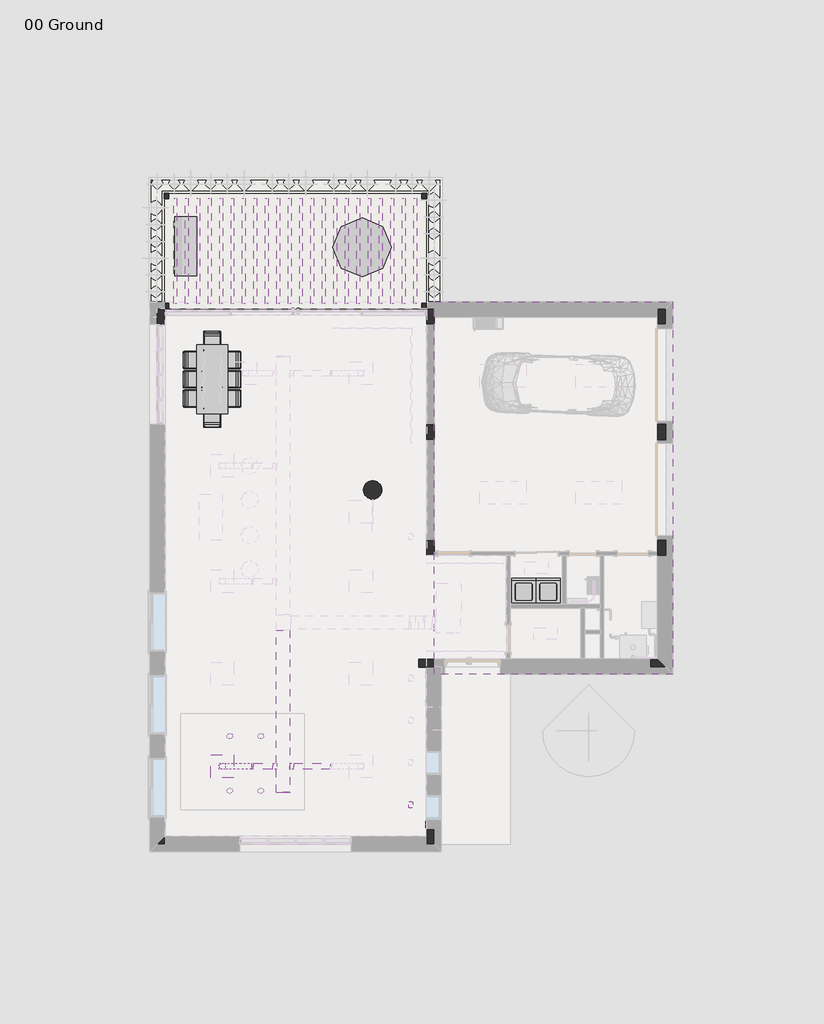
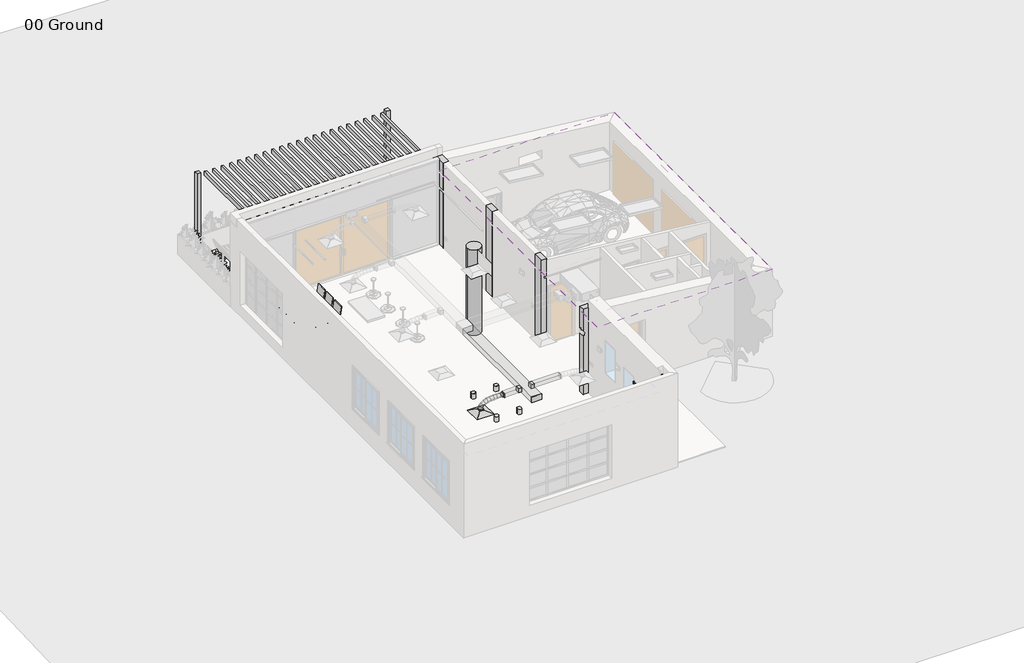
# One storey, part 3 of 7: 22 beams, 19 columns, 6 proxies, 5 duct fittings, 5 light fixtures, 4 duct segments, 2 furniture elements, 2 slabs, 2 other elements.
"""IFC4 building model written with IfcOpenShell, lengths in millimetres."""

from ifc_helpers import new_model, si_unit, frame, origin, origin_with_axes, place, context, project, spatial, polyline, circle_curve, ellipse_curve, outline, extrude, faceted_brep, transform, mapped, element, save
from ifc_brep_helpers import plane_surface, cylinder_surface, advanced_brep
from components import m_supply_diffuser_hosted_supply_diffuser_600x600mm_c6a520ad, m_glulam_southern_pine_76x140_5a5c9036, m_receptacle_220v_standard_10251bba, washer_1_nz_635_x_635_x_890mm_ea8aa6a1, m_glulam_southern_pine_column_127x140_dd4b0262, m_rectangular_endcap_standard_665b9dd8, m_rectangular_takeoff_standard_4b23f397, m_rectangular_takeoff_standard_c5702b73, m_rectangular_to_round_transition_angle_45_degree_4e08f822, furniture_fec55555, furniture_39fc5e60, furniture_cb06e47c, furniture_130fb363, m_table_dining_round_w_chairs_1525mm_diameter_e8096f67, m_downlight_recessed_can_152mm_incandescent_277v_fb24c78e, m_downlight_spot_60_degree_tilt_277v_15926088

model = new_model("IFC4")

# Units and contexts
model_context = context("Model", 3, world=origin())
ifc_project = project(units=[si_unit("LENGTHUNIT", "METRE", prefix="MILLI")], contexts=[model_context])

# Site, building, storey
site = spatial("IfcSite", under=ifc_project)
building = spatial("IfcBuilding", under=site)
storey = spatial("IfcBuildingStorey", under=building, Name="00 Ground", Elevation=0.0)

# Air terminal
placement = place(None, origin())
m_supply_diffuser_hosted_supply_diffuser_600x600mm_shape = m_supply_diffuser_hosted_supply_diffuser_600x600mm_c6a520ad(model_context)
element("IfcAirTerminal", 1, ObjectType="M_Supply Diffuser - Hosted : Supply Diffuser 600x600mm", at=placement, inside=storey, context=model_context, shape_type="MappedRepresentation", body=[
    mapped(m_supply_diffuser_hosted_supply_diffuser_600x600mm_shape, transform((-6624.5407999, -5532.7101648, 2700.0), x_axis=(1.0, 0.0, 0.0), y_axis=(0.0, -1.0, 0.0), z_axis=(0.0, 0.0, -1.0))),
])

# Beams
m_glulam_southern_pine_76x140_shape = m_glulam_southern_pine_76x140_5a5c9036(model_context)
element("IfcBeam", 2, ObjectType="M_Glulam-Southern Pine : 76X140", at=placement, inside=storey, context=model_context, shape_type="MappedRepresentation", body=[
    mapped(m_glulam_southern_pine_76x140_shape, transform((-6656.0190608, 7837.2898352, 3130.0), x_axis=(0.0, -1.0, 0.0), y_axis=(1.0, 0.0, 0.0), z_axis=(0.0, 0.0, 1.0))),
])
element("IfcBeam", 3, ObjectType="M_Glulam-Southern Pine : 76X140", at=placement, inside=storey, context=model_context, shape_type="MappedRepresentation", body=[
    mapped(m_glulam_southern_pine_76x140_shape, transform((-6952.3234086, 7837.2898352, 3130.0), x_axis=(0.0, -1.0, 0.0), y_axis=(1.0, 0.0, 0.0), z_axis=(0.0, 0.0, 1.0))),
])
element("IfcBeam", 4, ObjectType="M_Glulam-Southern Pine : 76X140", at=placement, inside=storey, context=model_context, shape_type="MappedRepresentation", body=[
    mapped(m_glulam_southern_pine_76x140_shape, transform((-7248.6277565, 7837.2898352, 3130.0), x_axis=(0.0, -1.0, 0.0), y_axis=(1.0, 0.0, 0.0), z_axis=(0.0, 0.0, 1.0))),
])
element("IfcBeam", 5, ObjectType="M_Glulam-Southern Pine : 76X140", at=placement, inside=storey, context=model_context, shape_type="MappedRepresentation", body=[
    mapped(m_glulam_southern_pine_76x140_shape, transform((-7544.9321043, 7837.2898352, 3130.0), x_axis=(0.0, -1.0, 0.0), y_axis=(1.0, 0.0, 0.0), z_axis=(0.0, 0.0, 1.0))),
])
element("IfcBeam", 6, ObjectType="M_Glulam-Southern Pine : 76X140", at=placement, inside=storey, context=model_context, shape_type="MappedRepresentation", body=[
    mapped(m_glulam_southern_pine_76x140_shape, transform((-7841.2364521, 7837.2898352, 3130.0), x_axis=(0.0, -1.0, 0.0), y_axis=(1.0, 0.0, 0.0), z_axis=(0.0, 0.0, 1.0))),
])
element("IfcBeam", 7, ObjectType="M_Glulam-Southern Pine : 76X140", at=placement, inside=storey, context=model_context, shape_type="MappedRepresentation", body=[
    mapped(m_glulam_southern_pine_76x140_shape, transform((-1618.8451478, 7837.2898352, 3130.0), x_axis=(0.0, -1.0, 0.0), y_axis=(1.0, 0.0, 0.0), z_axis=(0.0, 0.0, 1.0))),
])
element("IfcBeam", 8, ObjectType="M_Glulam-Southern Pine : 76X140", at=placement, inside=storey, context=model_context, shape_type="MappedRepresentation", body=[
    mapped(m_glulam_southern_pine_76x140_shape, transform((-1915.1494956, 7837.2898352, 3130.0), x_axis=(0.0, -1.0, 0.0), y_axis=(1.0, 0.0, 0.0), z_axis=(0.0, 0.0, 1.0))),
])
element("IfcBeam", 9, ObjectType="M_Glulam-Southern Pine : 76X140", at=placement, inside=storey, context=model_context, shape_type="MappedRepresentation", body=[
    mapped(m_glulam_southern_pine_76x140_shape, transform((-2211.4538434, 7837.2898352, 3130.0), x_axis=(0.0, -1.0, 0.0), y_axis=(1.0, 0.0, 0.0), z_axis=(0.0, 0.0, 1.0))),
])
element("IfcBeam", 10, ObjectType="M_Glulam-Southern Pine : 76X140", at=placement, inside=storey, context=model_context, shape_type="MappedRepresentation", body=[
    mapped(m_glulam_southern_pine_76x140_shape, transform((-2507.7581912, 7837.2898352, 3130.0), x_axis=(0.0, -1.0, 0.0), y_axis=(1.0, 0.0, 0.0), z_axis=(0.0, 0.0, 1.0))),
])
element("IfcBeam", 11, ObjectType="M_Glulam-Southern Pine : 76X140", at=placement, inside=storey, context=model_context, shape_type="MappedRepresentation", body=[
    mapped(m_glulam_southern_pine_76x140_shape, transform((-2804.0625391, 7837.2898352, 3130.0), x_axis=(0.0, -1.0, 0.0), y_axis=(1.0, 0.0, 0.0), z_axis=(0.0, 0.0, 1.0))),
])
element("IfcBeam", 12, ObjectType="M_Glulam-Southern Pine : 76X140", at=placement, inside=storey, context=model_context, shape_type="MappedRepresentation", body=[
    mapped(m_glulam_southern_pine_76x140_shape, transform((-3100.3668869, 7837.2898352, 3130.0), x_axis=(0.0, -1.0, 0.0), y_axis=(1.0, 0.0, 0.0), z_axis=(0.0, 0.0, 1.0))),
])
element("IfcBeam", 13, ObjectType="M_Glulam-Southern Pine : 76X140", at=placement, inside=storey, context=model_context, shape_type="MappedRepresentation", body=[
    mapped(m_glulam_southern_pine_76x140_shape, transform((-3396.6712347, 7837.2898352, 3130.0), x_axis=(0.0, -1.0, 0.0), y_axis=(1.0, 0.0, 0.0), z_axis=(0.0, 0.0, 1.0))),
])
element("IfcBeam", 14, ObjectType="M_Glulam-Southern Pine : 76X140", at=placement, inside=storey, context=model_context, shape_type="MappedRepresentation", body=[
    mapped(m_glulam_southern_pine_76x140_shape, transform((-3692.9755825, 7837.2898352, 3130.0), x_axis=(0.0, -1.0, 0.0), y_axis=(1.0, 0.0, 0.0), z_axis=(0.0, 0.0, 1.0))),
])
element("IfcBeam", 15, ObjectType="M_Glulam-Southern Pine : 76X140", at=placement, inside=storey, context=model_context, shape_type="MappedRepresentation", body=[
    mapped(m_glulam_southern_pine_76x140_shape, transform((-3989.2799304, 7837.2898352, 3130.0), x_axis=(0.0, -1.0, 0.0), y_axis=(1.0, 0.0, 0.0), z_axis=(0.0, 0.0, 1.0))),
])
element("IfcBeam", 16, ObjectType="M_Glulam-Southern Pine : 76X140", at=placement, inside=storey, context=model_context, shape_type="MappedRepresentation", body=[
    mapped(m_glulam_southern_pine_76x140_shape, transform((-4285.5842782, 7837.2898352, 3130.0), x_axis=(0.0, -1.0, 0.0), y_axis=(1.0, 0.0, 0.0), z_axis=(0.0, 0.0, 1.0))),
])
element("IfcBeam", 17, ObjectType="M_Glulam-Southern Pine : 76X140", at=placement, inside=storey, context=model_context, shape_type="MappedRepresentation", body=[
    mapped(m_glulam_southern_pine_76x140_shape, transform((-4581.888626, 7837.2898352, 3130.0), x_axis=(0.0, -1.0, 0.0), y_axis=(1.0, 0.0, 0.0), z_axis=(0.0, 0.0, 1.0))),
])
element("IfcBeam", 18, ObjectType="M_Glulam-Southern Pine : 76X140", at=placement, inside=storey, context=model_context, shape_type="MappedRepresentation", body=[
    mapped(m_glulam_southern_pine_76x140_shape, transform((-4878.1929738, 7837.2898352, 3130.0), x_axis=(0.0, -1.0, 0.0), y_axis=(1.0, 0.0, 0.0), z_axis=(0.0, 0.0, 1.0))),
])
element("IfcBeam", 19, ObjectType="M_Glulam-Southern Pine : 76X140", at=placement, inside=storey, context=model_context, shape_type="MappedRepresentation", body=[
    mapped(m_glulam_southern_pine_76x140_shape, transform((-5174.4973217, 7837.2898352, 3130.0), x_axis=(0.0, -1.0, 0.0), y_axis=(1.0, 0.0, 0.0), z_axis=(0.0, 0.0, 1.0))),
])
element("IfcBeam", 20, ObjectType="M_Glulam-Southern Pine : 76X140", at=placement, inside=storey, context=model_context, shape_type="MappedRepresentation", body=[
    mapped(m_glulam_southern_pine_76x140_shape, transform((-5470.8016695, 7837.2898352, 3130.0), x_axis=(0.0, -1.0, 0.0), y_axis=(1.0, 0.0, 0.0), z_axis=(0.0, 0.0, 1.0))),
])
element("IfcBeam", 21, ObjectType="M_Glulam-Southern Pine : 76X140", at=placement, inside=storey, context=model_context, shape_type="MappedRepresentation", body=[
    mapped(m_glulam_southern_pine_76x140_shape, transform((-5767.1060173, 7837.2898352, 3130.0), x_axis=(0.0, -1.0, 0.0), y_axis=(1.0, 0.0, 0.0), z_axis=(0.0, 0.0, 1.0))),
])
element("IfcBeam", 22, ObjectType="M_Glulam-Southern Pine : 76X140", at=placement, inside=storey, context=model_context, shape_type="MappedRepresentation", body=[
    mapped(m_glulam_southern_pine_76x140_shape, transform((-6063.4103652, 7837.2898352, 3130.0), x_axis=(0.0, -1.0, 0.0), y_axis=(1.0, 0.0, 0.0), z_axis=(0.0, 0.0, 1.0))),
])
element("IfcBeam", 23, ObjectType="M_Glulam-Southern Pine : 76X140", at=placement, inside=storey, context=model_context, shape_type="MappedRepresentation", body=[
    mapped(m_glulam_southern_pine_76x140_shape, transform((-6359.714713, 7837.2898352, 3130.0), x_axis=(0.0, -1.0, 0.0), y_axis=(1.0, 0.0, 0.0), z_axis=(0.0, 0.0, 1.0))),
])

# Proxies
m_receptacle_220v_standard_shape = m_receptacle_220v_standard_10251bba(model_context)
element("IfcBuildingElementProxy", 24, Name="M_Receptacle - 220V : Standard", ObjectType="M_Receptacle - 220V : Standard", at=placement, inside=storey, context=model_context, shape_type="MappedRepresentation", body=[
    mapped(m_receptacle_220v_standard_shape, transform((-8109.5407999, -6977.7101648, 460.0), x_axis=(0.0, 1.0, 0.0), y_axis=(0.0, 0.0, 1.0), z_axis=(1.0, 0.0, 0.0))),
])
element("IfcBuildingElementProxy", 25, Name="M_Receptacle - 220V : Standard", ObjectType="M_Receptacle - 220V : Standard", at=placement, inside=storey, context=model_context, shape_type="MappedRepresentation", body=[
    mapped(m_receptacle_220v_standard_shape, transform((-8109.5407999, -957.7101648, 460.0), x_axis=(0.0, 1.0, 0.0), y_axis=(0.0, 0.0, 1.0), z_axis=(1.0, 0.0, 0.0))),
])
element("IfcBuildingElementProxy", 26, Name="M_Receptacle - 220V : Standard", ObjectType="M_Receptacle - 220V : Standard", at=placement, inside=storey, context=model_context, shape_type="MappedRepresentation", body=[
    mapped(m_receptacle_220v_standard_shape, transform((-1335.5407999, -6989.7101648, 460.0), x_axis=(0.0, -1.0, 0.0), y_axis=(0.0, 0.0, 1.0), z_axis=(-1.0, 0.0, 0.0))),
])
element("IfcBuildingElementProxy", 27, Name="M_Receptacle - 220V : Standard", ObjectType="M_Receptacle - 220V : Standard", at=placement, inside=storey, context=model_context, shape_type="MappedRepresentation", body=[
    mapped(m_receptacle_220v_standard_shape, transform((-1335.5407999, -7089.7101648, 460.0), x_axis=(0.0, -1.0, 0.0), y_axis=(0.0, 0.0, 1.0), z_axis=(-1.0, 0.0, 0.0))),
])
washer_1_nz_635_x_635_x_890mm_shape = washer_1_nz_635_x_635_x_890mm_ea8aa6a1(model_context)
element("IfcBuildingElementProxy", 28, Name="Washer 1 (NZ) : 635 x 635 x 890mm", ObjectType="Washer 1 (NZ) : 635 x 635 x 890mm", at=placement, inside=storey, context=model_context, shape_type="MappedRepresentation", body=[
    mapped(washer_1_nz_635_x_635_x_890mm_shape, transform((802.8947027, -1253.3971499, 0.0), x_axis=(1.0, 0.0, 0.0), y_axis=(0.0, 1.0, 0.0), z_axis=(0.0, 0.0, 1.0))),
])
element("IfcBuildingElementProxy", 29, Name="Washer 1 (NZ) : 635 x 635 x 890mm", ObjectType="Washer 1 (NZ) : 635 x 635 x 890mm", at=placement, inside=storey, context=model_context, shape_type="MappedRepresentation", body=[
    mapped(washer_1_nz_635_x_635_x_890mm_shape, transform((1437.8947027, -1253.3971499, 0.0), x_axis=(1.0, 0.0, 0.0), y_axis=(0.0, 1.0, 0.0), z_axis=(0.0, 0.0, 1.0))),
])

# Columns
element("IfcColumn", 30, ObjectType="M_Concrete-Rectangular-Column : 200 x 400mm", at=placement, inside=storey, context=model_context, shape_type="Brep", body=[
    faceted_brep([(-8122.5407999, 6337.2898352, 0.0), (-8122.5407999, 5937.2898352, 0.0), (-8322.5407999, 5937.2898352, 0.0), (-8322.5407999, 6337.2898352, 0.0), (-8122.5407999, 6337.2898352, 3200.0), (-8122.5407999, 5937.2898352, 3200.0), (-8122.5407999, 5937.2898352, 2400.0), (-8122.5407999, 5937.2898352, 400.0), (-8322.5407999, 5937.2898352, 3200.0), (-8322.5407999, 5937.2898352, 2400.0), (-8322.5407999, 5937.2898352, 400.0), (-8322.5407999, 6124.2898352, 3200.0), (-8322.5407999, 6337.2898352, 3200.0)], [[[0, 1, 2, 3]], [[1, 0, 4, 5, 6, 7]], [[2, 1, 7, 6, 5, 8, 9, 10]], [[3, 2, 10, 9, 8, 11, 12]], [[0, 3, 12, 4]], [[5, 4, 12, 11, 8]]]),
])
element("IfcColumn", 31, ObjectType="M_Concrete-Rectangular-Column : 200 x 400mm", at=placement, inside=storey, context=model_context, shape_type="SweptSolid", body=[
    extrude(outline(polyline([(-8122.5407999, 3337.2898352), (-8122.5407999, 2937.2898352), (-8322.5407999, 2937.2898352), (-8322.5407999, 3337.2898352), (-8122.5407999, 3337.2898352)])), origin_with_axes(), (0.0, 0.0, 1.0), 3200.0),
])
element("IfcColumn", 32, ObjectType="M_Concrete-Rectangular-Column : 200 x 400mm", at=placement, inside=storey, context=model_context, shape_type="SweptSolid", body=[
    extrude(outline(polyline([(-8122.5407999, 337.2898352), (-8122.5407999, -62.7101648), (-8322.5407999, -62.7101648), (-8322.5407999, 337.2898352), (-8122.5407999, 337.2898352)])), origin_with_axes(), (0.0, 0.0, 1.0), 3200.0),
])
element("IfcColumn", 33, ObjectType="M_Concrete-Rectangular-Column : 200 x 400mm", at=placement, inside=storey, context=model_context, shape_type="SweptSolid", body=[
    extrude(outline(polyline([(-8122.5407999, -2662.7101648), (-8122.5407999, -3062.7101648), (-8322.5407999, -3062.7101648), (-8322.5407999, -2662.7101648), (-8122.5407999, -2662.7101648)])), origin_with_axes(), (0.0, 0.0, 1.0), 3200.0),
])
element("IfcColumn", 34, ObjectType="M_Concrete-Rectangular-Column : 200 x 400mm", at=placement, inside=storey, context=model_context, shape_type="SweptSolid", body=[
    extrude(outline(polyline([(-1122.5407999, 337.2898352), (-1122.5407999, -62.7101648), (-1322.5407999, -62.7101648), (-1322.5407999, 337.2898352), (-1122.5407999, 337.2898352)])), origin_with_axes(), (0.0, 0.0, 1.0), 3200.0),
])
element("IfcColumn", 35, ObjectType="M_Concrete-Rectangular-Column : 200 x 400mm", at=placement, inside=storey, context=model_context, shape_type="Brep", body=[
    faceted_brep([(-1522.5407999, -2762.7101648, 0.0), (-1122.5407999, -2762.7101648, 0.0), (-1122.5407999, -2948.7101648, 0.0), (-1122.5407999, -2962.7101648, 0.0), (-1335.5407999, -2962.7101648, 0.0), (-1522.5407999, -2962.7101648, 0.0), (-1522.5407999, -2762.7101648, 3200.0), (-1122.5407999, -2762.7101648, 3200.0), (-1122.5407999, -2962.7101648, 3200.0), (-1522.5407999, -2962.7101648, 3200.0)], [[[0, 1, 2, 3, 4, 5]], [[1, 0, 6, 7]], [[3, 2, 1, 7, 8]], [[5, 4, 3, 8, 9]], [[0, 5, 9, 6]], [[7, 6, 9, 8]]]),
])
element("IfcColumn", 36, ObjectType="M_Concrete-Rectangular-Column : 200 x 400mm", at=placement, inside=storey, context=model_context, shape_type="Brep", body=[
    faceted_brep([(4877.4592001, 6337.2898352, 0.0), (4877.4592001, 5937.2898352, 0.0), (4677.4592001, 5937.2898352, 0.0), (4677.4592001, 6137.2898352, 0.0), (4677.4592001, 6337.2898352, 0.0), (4877.4592001, 6337.2898352, 2519.7413096), (4877.4592001, 5937.2898352, 2519.7413096), (4677.4592001, 5937.2898352, 2519.7413096), (4677.4592001, 6137.2898352, 2519.7413096), (4677.4592001, 6337.2898352, 2519.7413096)], [[[0, 1, 2, 3, 4]], [[5, 6, 1, 0]], [[6, 7, 2, 1]], [[7, 8, 9, 4, 3, 2]], [[9, 5, 0, 4]], [[5, 9, 8, 7, 6]]]),
])
element("IfcColumn", 37, ObjectType="M_Concrete-Rectangular-Column : 200 x 400mm", at=placement, inside=storey, context=model_context, shape_type="Brep", body=[
    faceted_brep([(-1122.5407999, 6337.2898352, 0.0), (-1122.5407999, 6124.2898352, 0.0), (-1122.5407999, 5937.2898352, 0.0), (-1322.5407999, 5937.2898352, 0.0), (-1322.5407999, 6337.2898352, 0.0), (-1122.5407999, 6337.2898352, 3160.0), (-1122.5407999, 6337.2898352, 3200.0), (-1122.5407999, 5937.2898352, 3200.0), (-1322.5407999, 5937.2898352, 3200.0), (-1322.5407999, 6337.2898352, 3200.0), (-1300.0407999, 6337.2898352, 3200.0)], [[[0, 1, 2, 3, 4]], [[2, 1, 0, 5, 6, 7]], [[3, 2, 7, 8]], [[4, 3, 8, 9]], [[0, 4, 9, 10, 6, 5]], [[7, 6, 10, 9, 8]]]),
])
element("IfcColumn", 38, ObjectType="M_Concrete-Rectangular-Column : 200 x 400mm", at=placement, inside=storey, context=model_context, shape_type="SweptSolid", body=[
    extrude(outline(polyline([(-1122.5407999, 3337.2898352), (-1122.5407999, 2937.2898352), (-1322.5407999, 2937.2898352), (-1322.5407999, 3337.2898352), (-1122.5407999, 3337.2898352)])), origin_with_axes(), (0.0, 0.0, 1.0), 3200.0),
])
element("IfcColumn", 39, ObjectType="M_Concrete-Rectangular-Column : 200 x 400mm", at=placement, inside=storey, context=model_context, shape_type="SweptSolid", body=[
    extrude(outline(polyline([(4877.4592001, 3337.2898352), (4877.4592001, 2937.2898352), (4677.4592001, 2937.2898352), (4677.4592001, 3337.2898352), (4877.4592001, 3337.2898352)])), origin_with_axes(), (0.0, 0.0, 1.0), 2519.7413096),
])
element("IfcColumn", 40, ObjectType="M_Concrete-Rectangular-Column : 200 x 400mm", at=placement, inside=storey, context=model_context, shape_type="Brep", body=[
    faceted_brep([(4477.4592001, -2762.7101648, 0.0), (4677.4592001, -2762.7101648, 0.0), (4877.4592001, -2762.7101648, 0.0), (4877.4592001, -2962.7101648, 0.0), (4477.4592001, -2962.7101648, 0.0), (4477.4592001, -2762.7101648, 2519.7413096), (4677.4592001, -2762.7101648, 2519.7413096), (4877.4592001, -2762.7101648, 2519.7413096), (4877.4592001, -2962.7101648, 2519.7413096), (4477.4592001, -2962.7101648, 2519.7413096)], [[[0, 1, 2, 3, 4]], [[5, 6, 7, 2, 1, 0]], [[7, 8, 3, 2]], [[8, 9, 4, 3]], [[9, 5, 0, 4]], [[5, 9, 8, 7, 6]]]),
])
element("IfcColumn", 41, ObjectType="M_Concrete-Rectangular-Column : 200 x 400mm", at=placement, inside=storey, context=model_context, shape_type="SweptSolid", body=[
    extrude(outline(polyline([(4677.4592001, -62.7101648), (4677.4592001, 337.2898352), (4877.4592001, 337.2898352), (4877.4592001, -62.7101648), (4677.4592001, -62.7101648)])), origin_with_axes(), (0.0, 0.0, 1.0), 2519.7413096),
])
element("IfcColumn", 42, ObjectType="M_Concrete-Rectangular-Column : 200 x 400mm", at=placement, inside=storey, context=model_context, shape_type="Brep", body=[
    faceted_brep([(-8122.5407999, -7162.7101648, 0.0), (-8122.5407999, -7362.7101648, 0.0), (-8122.5407999, -7562.7101648, 0.0), (-8322.5407999, -7562.7101648, 0.0), (-8322.5407999, -7162.7101648, 0.0), (-8122.5407999, -7162.7101648, 3200.0), (-8122.5407999, -7362.7101648, 3200.0), (-8122.5407999, -7562.7101648, 3200.0), (-8322.5407999, -7562.7101648, 3200.0), (-8322.5407999, -7162.7101648, 3200.0)], [[[0, 1, 2, 3, 4]], [[2, 1, 0, 5, 6, 7]], [[3, 2, 7, 8]], [[4, 3, 8, 9]], [[0, 4, 9, 5]], [[7, 6, 5, 9, 8]]]),
])
element("IfcColumn", 43, ObjectType="M_Concrete-Rectangular-Column : 200 x 400mm", at=placement, inside=storey, context=model_context, shape_type="Brep", body=[
    faceted_brep([(-1122.5407999, -7162.7101648, 0.0), (-1122.5407999, -7562.7101648, 0.0), (-1322.5407999, -7562.7101648, 0.0), (-1322.5407999, -7362.7101648, 0.0), (-1322.5407999, -7162.7101648, 0.0), (-1122.5407999, -7162.7101648, 3200.0), (-1122.5407999, -7562.7101648, 3200.0), (-1322.5407999, -7562.7101648, 3200.0), (-1322.5407999, -7362.7101648, 3200.0), (-1322.5407999, -7162.7101648, 3200.0)], [[[0, 1, 2, 3, 4]], [[1, 0, 5, 6]], [[2, 1, 6, 7]], [[4, 3, 2, 7, 8, 9]], [[0, 4, 9, 5]], [[6, 5, 9, 8, 7]]]),
])
element("IfcColumn", 44, ObjectType="M_Concrete-Round-Column : 480mm", at=placement, inside=storey, context=model_context, shape_type="AdvancedBrep", body=[
    advanced_brep(
    [(-2962.5407999, 1637.2898352, 0.0), (-2482.5407999, 1637.2898352, 0.0), (-2962.5407999, 1637.2898352, 3200.0), (-2482.5407999, 1637.2898352, 3200.0), (-2722.1476319, 1397.2901573, 3200.0)],
    [
        (0, 1, circle_curve(frame((-2722.5407999, 1637.2898352, 0.0), z_axis=(0.0, 0.0, -1.0), x_axis=(1.0, 0.0, 0.0)), 240.0)),
        (1, 0, circle_curve(frame((-2722.5407999, 1637.2898352, 0.0), z_axis=(0.0, 0.0, -1.0), x_axis=(1.0, 0.0, 0.0)), 240.0)),
        (0, 2),
        (2, 3, circle_curve(frame((-2722.5407999, 1637.2898352, 3200.0), z_axis=(0.0, 0.0, -1.0), x_axis=(1.0, 0.0, 0.0)), 240.0)),
        (3, 1),
        (3, 4, circle_curve(frame((-2722.5407999, 1637.2898352, 3200.0), z_axis=(0.0, 0.0, -1.0), x_axis=(1.0, 0.0, 0.0)), 240.0)),
        (4, 2, circle_curve(frame((-2722.5407999, 1637.2898352, 3200.0), z_axis=(0.0, 0.0, -1.0), x_axis=(1.0, 0.0, 0.0)), 240.0)),
    ],
    [
        plane_surface(frame((-2482.5407999, 1637.2898352, 0.0), z_axis=(0.0, 0.0, -1.0), x_axis=(0.0, -1.0, 0.0))),
        cylinder_surface(frame((-2722.5407999, 1637.2898352, 0.0), z_axis=(0.0, 0.0, 1.0), x_axis=(1.0, 0.0, 0.0)), 240.0),
        plane_surface(frame((4877.4592001, 6337.2898352, 3200.0), z_axis=(0.0, 0.0, 1.0), x_axis=(1.0, 0.0, 0.0))),
    ],
    [
        (0, [[1, 2]]),
        (1, [[-1, 3, 4, 5]]),
        (1, [[-2, -5, 6, 7, -3]]),
        (2, [[-4, -7, -6]]),
    ],
),
])
m_glulam_southern_pine_column_127x140_shape = m_glulam_southern_pine_column_127x140_dd4b0262(model_context)
element("IfcColumn", 45, ObjectType="M_Glulam-Southern Pine-Column : 127x140", at=placement, inside=storey, context=model_context, shape_type="MappedRepresentation", body=[
    mapped(m_glulam_southern_pine_column_127x140_shape, transform((-8074.0407999, 9267.2898352, 0.0), x_axis=(1.0, 0.0, 0.0), y_axis=(0.0, 1.0, 0.0), z_axis=(0.0, 0.0, 1.0))),
])
element("IfcColumn", 46, ObjectType="M_Glulam-Southern Pine-Column : 127x140", at=placement, inside=storey, context=model_context, shape_type="MappedRepresentation", body=[
    mapped(m_glulam_southern_pine_column_127x140_shape, transform((-1386.0407999, 9267.2898352, 0.0), x_axis=(1.0, 0.0, 0.0), y_axis=(0.0, 1.0, 0.0), z_axis=(0.0, 0.0, 1.0))),
])
element("IfcColumn", 47, ObjectType="M_Glulam-Southern Pine-Column : 127x140", at=placement, inside=storey, context=model_context, shape_type="MappedRepresentation", body=[
    mapped(m_glulam_southern_pine_column_127x140_shape, transform((-8074.0407999, 6407.2898352, 0.0), x_axis=(1.0, 0.0, 0.0), y_axis=(0.0, 1.0, 0.0), z_axis=(0.0, 0.0, 1.0))),
])
element("IfcColumn", 48, ObjectType="M_Glulam-Southern Pine-Column : 127x140", at=placement, inside=storey, context=model_context, shape_type="MappedRepresentation", body=[
    mapped(m_glulam_southern_pine_column_127x140_shape, transform((-1386.0407999, 6407.2898352, 0.0), x_axis=(1.0, 0.0, 0.0), y_axis=(0.0, 1.0, 0.0), z_axis=(0.0, 0.0, 1.0))),
])

# Duct fittings
m_rectangular_endcap_standard_shape = m_rectangular_endcap_standard_665b9dd8(model_context)
element("IfcDuctFitting", 49, ObjectType="M_Rectangular Endcap : Standard", at=placement, inside=storey, context=model_context, shape_type="MappedRepresentation", body=[
    mapped(m_rectangular_endcap_standard_shape, transform((-5044.5407999, -6202.2101648, 3090.0), x_axis=(0.0, -1.0, 0.0), y_axis=(1.0, 0.0, 0.0), z_axis=(0.0, 0.0, 1.0))),
])
m_rectangular_takeoff_standard_shape = m_rectangular_takeoff_standard_4b23f397(model_context)
element("IfcDuctFitting", 50, ObjectType="M_Rectangular Takeoff : Standard", at=placement, inside=storey, context=model_context, shape_type="MappedRepresentation", body=[
    mapped(m_rectangular_takeoff_standard_shape, transform((-4869.5407999, -5532.7101648, 3090.0), x_axis=(1.0, 0.0, 0.0), y_axis=(0.0, -1.0, 0.0), z_axis=(0.0, 0.0, -1.0))),
])
m_rectangular_takeoff_standard_2_shape = m_rectangular_takeoff_standard_c5702b73(model_context)
element("IfcDuctFitting", 51, ObjectType="M_Rectangular Takeoff : Standard", at=placement, inside=storey, context=model_context, shape_type="MappedRepresentation", body=[
    mapped(m_rectangular_takeoff_standard_2_shape, transform((-5219.5407999, -5532.7101648, 3090.0), x_axis=(-1.0, 0.0, 0.0), y_axis=(0.0, 1.0, 0.0), z_axis=(0.0, 0.0, -1.0))),
])
m_rectangular_to_round_transition_angle_45_degree_shape = m_rectangular_to_round_transition_angle_45_degree_4e08f822(model_context)
element("IfcDuctFitting", 52, ObjectType="M_Rectangular to Round Transition - Angle : 45 Degree", at=placement, inside=storey, context=model_context, shape_type="MappedRepresentation", body=[
    mapped(m_rectangular_to_round_transition_angle_45_degree_shape, transform((-6624.5407999, -5532.7101648, 2801.8523776), x_axis=(0.0, 0.0, 1.0), y_axis=(-1.0, 0.0, 0.0), z_axis=(0.0, -1.0, 0.0))),
])
element("IfcDuctFitting", 53, ObjectType="M_Rectangular to Round Transition - Angle : 45 Degree", at=placement, inside=storey, context=model_context, shape_type="MappedRepresentation", body=[
    mapped(m_rectangular_to_round_transition_angle_45_degree_shape, transform((-5824.8204567, -5532.7101648, 3090.0), x_axis=(-1.0, 0.0, 0.0), y_axis=(0.0, -1.0, 0.0), z_axis=(0.0, 0.0, 1.0))),
])

# Duct segments
element("IfcDuctSegment", 54, ObjectType="Flex - Round", at=placement, inside=storey, context=model_context, shape_type="AdvancedBrep", body=[
    advanced_brep(
    [(-6549.5407999, -5532.7101648, 2839.3523776), (-6624.5407999, -5607.7101648, 2839.3523776), (-6699.5407999, -5532.7101648, 2839.3523776), (-6624.5407999, -5457.7101648, 2839.3523776), (-6549.5407999, -5532.7101648, 2845.2848901), (-6624.5407999, -5607.7101648, 2855.419138), (-6699.5407999, -5532.7101648, 2865.5533859), (-6624.5407999, -5457.7101648, 2855.419138), (-6538.9605787, -5532.7101648, 2883.7203187), (-6607.2067583, -5607.7101648, 2918.3895908), (-6675.4529379, -5532.7101648, 2953.0588628), (-6607.2067583, -5457.7101648, 2918.3895908), (-6508.7482866, -5532.7101648, 2921.7423363), (-6559.1665904, -5607.7101648, 2978.8479003), (-6609.5848941, -5532.7101648, 3035.9534644), (-6559.1665904, -5457.7101648, 2978.8479003), (-6454.5294779, -5532.7101648, 2954.7766158), (-6486.3632316, -5607.7101648, 3023.205321), (-6518.1969853, -5532.7101648, 3091.6340262), (-6486.3632316, -5457.7101648, 3023.205321), (-6375.8137951, -5532.7101648, 2981.1812805), (-6394.7396175, -5607.7101648, 3053.9398674), (-6413.6654398, -5532.7101648, 3126.6984544), (-6394.7396175, -5457.7101648, 3053.9398674), (-6279.6508054, -5532.7101648, 2999.207941), (-6290.2386834, -5607.7101648, 3073.5295543), (-6300.8265614, -5532.7101648, 3147.8511676), (-6290.2386834, -5457.7101648, 3073.5295543), (-6173.5634766, -5532.7101648, 3009.6065753), (-6178.8033648, -5607.7101648, 3084.4523963), (-6184.043253, -5532.7101648, 3159.2982173), (-6178.8033648, -5457.7101648, 3084.4523963), (-6064.4414556, -5532.7101648, 3014.2014325), (-6066.3765972, -5607.7101648, 3089.1864082), (-6068.3117388, -5532.7101648, 3164.1713838), (-6066.3765972, -5457.7101648, 3089.1864082), (-5958.6256959, -5532.7101648, 3015.2088297), (-5958.901316, -5607.7101648, 3090.2096045), (-5959.1769362, -5532.7101648, 3165.2103793), (-5958.901316, -5457.7101648, 3090.2096045), (-5862.483225, -5532.7101648, 3015.0001766), (-5862.3204567, -5457.7101648, 3090.0), (-5862.1576884, -5532.7101648, 3164.9998234), (-5862.3204567, -5607.7101648, 3090.0)],
    [
        (0, 1, circle_curve(frame((-6624.5407999, -5532.7101648, 2839.3523776), z_axis=(0.0, 0.0, -1.0), x_axis=(1.0, 0.0, 0.0)), 75.0)),
        (1, 2, circle_curve(frame((-6624.5407999, -5532.7101648, 2839.3523776), z_axis=(0.0, 0.0, -1.0), x_axis=(1.0, 0.0, 0.0)), 75.0)),
        (2, 3, circle_curve(frame((-6624.5407999, -5532.7101648, 2839.3523776), z_axis=(0.0, 0.0, -1.0), x_axis=(1.0, 0.0, 0.0)), 75.0)),
        (3, 0, circle_curve(frame((-6624.5407999, -5532.7101648, 2839.3523776), z_axis=(0.0, 0.0, -1.0), x_axis=(1.0, 0.0, 0.0)), 75.0)),
        (0, 4),
        (4, 5, ellipse_curve(frame((-6624.5407999, -5532.7101648, 2855.419138), z_axis=(-0.13390638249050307, 0.0, -0.9909939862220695), x_axis=(0.9909939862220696, 0.0, -0.13390638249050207)), 75.6815894, 75.0)),
        (5, 1),
        (5, 6, ellipse_curve(frame((-6624.5407999, -5532.7101648, 2855.419138), z_axis=(-0.13390638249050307, 0.0, -0.9909939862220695), x_axis=(0.9909939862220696, 0.0, -0.13390638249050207)), 75.6815894, 75.0)),
        (6, 2),
        (6, 7, ellipse_curve(frame((-6624.5407999, -5532.7101648, 2855.419138), z_axis=(-0.13390638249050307, 0.0, -0.9909939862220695), x_axis=(0.9909939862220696, 0.0, -0.13390638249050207)), 75.6815894, 75.0)),
        (7, 3),
        (7, 4, ellipse_curve(frame((-6624.5407999, -5532.7101648, 2855.419138), z_axis=(-0.13390638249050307, 0.0, -0.9909939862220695), x_axis=(0.9909939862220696, 0.0, -0.13390638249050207)), 75.6815894, 75.0)),
        (4, 8),
        (8, 9, ellipse_curve(frame((-6607.2067583, -5532.7101648, 2918.3895908), z_axis=(-0.45291266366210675, 0.0, -0.8915548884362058), x_axis=(0.8915548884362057, 0.0, -0.45291266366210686)), 76.5473674, 75.0)),
        (9, 5),
        (9, 10, ellipse_curve(frame((-6607.2067583, -5532.7101648, 2918.3895908), z_axis=(-0.45291266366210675, 0.0, -0.8915548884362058), x_axis=(0.8915548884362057, 0.0, -0.45291266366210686)), 76.5473674, 75.0)),
        (10, 6),
        (10, 11, ellipse_curve(frame((-6607.2067583, -5532.7101648, 2918.3895908), z_axis=(-0.45291266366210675, 0.0, -0.8915548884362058), x_axis=(0.8915548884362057, 0.0, -0.45291266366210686)), 76.5473674, 75.0)),
        (11, 7),
        (11, 8, ellipse_curve(frame((-6607.2067583, -5532.7101648, 2918.3895908), z_axis=(-0.45291266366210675, 0.0, -0.8915548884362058), x_axis=(0.8915548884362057, 0.0, -0.45291266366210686)), 76.5473674, 75.0)),
        (8, 12),
        (12, 13, ellipse_curve(frame((-6559.1665904, -5532.7101648, 2978.8479003), z_axis=(-0.74963566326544, 0.0, -0.661850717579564), x_axis=(0.6618507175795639, 0.0, -0.7496356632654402)), 76.1777579, 75.0)),
        (13, 9),
        (13, 14, ellipse_curve(frame((-6559.1665904, -5532.7101648, 2978.8479003), z_axis=(-0.74963566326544, 0.0, -0.661850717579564), x_axis=(0.6618507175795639, 0.0, -0.7496356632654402)), 76.1777579, 75.0)),
        (14, 10),
        (14, 15, ellipse_curve(frame((-6559.1665904, -5532.7101648, 2978.8479003), z_axis=(-0.74963566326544, 0.0, -0.661850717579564), x_axis=(0.6618507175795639, 0.0, -0.7496356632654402)), 76.1777579, 75.0)),
        (15, 11),
        (15, 12, ellipse_curve(frame((-6559.1665904, -5532.7101648, 2978.8479003), z_axis=(-0.74963566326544, 0.0, -0.661850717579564), x_axis=(0.6618507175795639, 0.0, -0.7496356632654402)), 76.1777579, 75.0)),
        (12, 16),
        (16, 17, ellipse_curve(frame((-6486.3632316, -5532.7101648, 3023.205321), z_axis=(-0.9066884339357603, 0.0, -0.42180100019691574), x_axis=(0.42180100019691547, 0.0, -0.9066884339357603)), 75.4710247, 75.0)),
        (17, 13),
        (17, 18, ellipse_curve(frame((-6486.3632316, -5532.7101648, 3023.205321), z_axis=(-0.9066884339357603, 0.0, -0.42180100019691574), x_axis=(0.42180100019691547, 0.0, -0.9066884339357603)), 75.4710247, 75.0)),
        (18, 14),
        (18, 19, ellipse_curve(frame((-6486.3632316, -5532.7101648, 3023.205321), z_axis=(-0.9066884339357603, 0.0, -0.42180100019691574), x_axis=(0.42180100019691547, 0.0, -0.9066884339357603)), 75.4710247, 75.0)),
        (19, 15),
        (19, 16, ellipse_curve(frame((-6486.3632316, -5532.7101648, 3023.205321), z_axis=(-0.9066884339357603, 0.0, -0.42180100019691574), x_axis=(0.42180100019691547, 0.0, -0.9066884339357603)), 75.4710247, 75.0)),
        (16, 20),
        (20, 21, ellipse_curve(frame((-6394.7396175, -5532.7101648, 3053.9398674), z_axis=(-0.9677946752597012, 0.0, -0.251740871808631), x_axis=(0.2517408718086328, 0.0, -0.9677946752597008)), 75.179776, 75.0)),
        (21, 17),
        (21, 22, ellipse_curve(frame((-6394.7396175, -5532.7101648, 3053.9398674), z_axis=(-0.9677946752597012, 0.0, -0.251740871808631), x_axis=(0.2517408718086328, 0.0, -0.9677946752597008)), 75.179776, 75.0)),
        (22, 18),
        (22, 23, ellipse_curve(frame((-6394.7396175, -5532.7101648, 3053.9398674), z_axis=(-0.9677946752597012, 0.0, -0.251740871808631), x_axis=(0.2517408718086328, 0.0, -0.9677946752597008)), 75.179776, 75.0)),
        (23, 19),
        (23, 20, ellipse_curve(frame((-6394.7396175, -5532.7101648, 3053.9398674), z_axis=(-0.9677946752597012, 0.0, -0.251740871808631), x_axis=(0.2517408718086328, 0.0, -0.9677946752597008)), 75.179776, 75.0)),
        (20, 24),
        (24, 25, ellipse_curve(frame((-6290.2386834, -5532.7101648, 3073.5295543), z_axis=(-0.9900044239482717, 0.0, -0.14103630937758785), x_axis=(0.1410363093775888, 0.0, -0.9900044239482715)), 75.0720012, 75.0)),
        (25, 21),
        (25, 26, ellipse_curve(frame((-6290.2386834, -5532.7101648, 3073.5295543), z_axis=(-0.9900044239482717, 0.0, -0.14103630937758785), x_axis=(0.1410363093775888, 0.0, -0.9900044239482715)), 75.0720012, 75.0)),
        (26, 22),
        (26, 27, ellipse_curve(frame((-6290.2386834, -5532.7101648, 3073.5295543), z_axis=(-0.9900044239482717, 0.0, -0.14103630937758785), x_axis=(0.1410363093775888, 0.0, -0.9900044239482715)), 75.0720012, 75.0)),
        (27, 23),
        (27, 24, ellipse_curve(frame((-6290.2386834, -5532.7101648, 3073.5295543), z_axis=(-0.9900044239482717, 0.0, -0.14103630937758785), x_axis=(0.1410363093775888, 0.0, -0.9900044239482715)), 75.0720012, 75.0)),
        (24, 28),
        (28, 29, ellipse_curve(frame((-6178.8033648, -5532.7101648, 3084.4523963), z_axis=(-0.9975583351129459, 0.0, -0.06983815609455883), x_axis=(0.06983815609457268, 0.0, -0.9975583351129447)), 75.0290167, 75.0)),
        (29, 25),
        (29, 30, ellipse_curve(frame((-6178.8033648, -5532.7101648, 3084.4523963), z_axis=(-0.9975583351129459, 0.0, -0.06983815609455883), x_axis=(0.06983815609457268, 0.0, -0.9975583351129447)), 75.0290167, 75.0)),
        (30, 26),
        (30, 31, ellipse_curve(frame((-6178.8033648, -5532.7101648, 3084.4523963), z_axis=(-0.9975583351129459, 0.0, -0.06983815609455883), x_axis=(0.06983815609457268, 0.0, -0.9975583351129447)), 75.0290167, 75.0)),
        (31, 27),
        (31, 28, ellipse_curve(frame((-6178.8033648, -5532.7101648, 3084.4523963), z_axis=(-0.9975583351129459, 0.0, -0.06983815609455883), x_axis=(0.06983815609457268, 0.0, -0.9975583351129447)), 75.0290167, 75.0)),
        (28, 32),
        (32, 33, ellipse_curve(frame((-6066.3765972, -5532.7101648, 3089.1864082), z_axis=(-0.999667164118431, 0.0, -0.025798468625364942), x_axis=(0.025798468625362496, 0.0, -0.999667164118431)), 75.0099417, 75.0)),
        (33, 29),
        (33, 34, ellipse_curve(frame((-6066.3765972, -5532.7101648, 3089.1864082), z_axis=(-0.999667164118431, 0.0, -0.025798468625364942), x_axis=(0.025798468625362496, 0.0, -0.999667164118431)), 75.0099417, 75.0)),
        (34, 30),
        (34, 35, ellipse_curve(frame((-6066.3765972, -5532.7101648, 3089.1864082), z_axis=(-0.999667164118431, 0.0, -0.025798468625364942), x_axis=(0.025798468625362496, 0.0, -0.999667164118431)), 75.0099417, 75.0)),
        (35, 31),
        (35, 32, ellipse_curve(frame((-6066.3765972, -5532.7101648, 3089.1864082), z_axis=(-0.999667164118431, 0.0, -0.025798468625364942), x_axis=(0.025798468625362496, 0.0, -0.999667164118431)), 75.0099417, 75.0)),
        (32, 36),
        (36, 37, ellipse_curve(frame((-5958.901316, -5532.7101648, 3090.2096045), z_axis=(-0.999993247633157, 0.0, -0.0036748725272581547), x_axis=(0.00367487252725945, 0.0, -0.9999932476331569)), 75.0012812, 75.0)),
        (37, 33),
        (37, 38, ellipse_curve(frame((-5958.901316, -5532.7101648, 3090.2096045), z_axis=(-0.999993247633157, 0.0, -0.0036748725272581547), x_axis=(0.00367487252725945, 0.0, -0.9999932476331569)), 75.0012812, 75.0)),
        (38, 34),
        (38, 39, ellipse_curve(frame((-5958.901316, -5532.7101648, 3090.2096045), z_axis=(-0.999993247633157, 0.0, -0.0036748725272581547), x_axis=(0.00367487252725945, 0.0, -0.9999932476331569)), 75.0012812, 75.0)),
        (39, 35),
        (39, 36, ellipse_curve(frame((-5958.901316, -5532.7101648, 3090.2096045), z_axis=(-0.999993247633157, 0.0, -0.0036748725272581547), x_axis=(0.00367487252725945, 0.0, -0.9999932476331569)), 75.0012812, 75.0)),
        (40, 41, circle_curve(frame((-5862.3204567, -5532.7101648, 3090.0), z_axis=(0.9999976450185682, 0.0, -0.002170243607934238), x_axis=(-0.002170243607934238, 0.0, -0.9999976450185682)), 75.0)),
        (41, 42, circle_curve(frame((-5862.3204567, -5532.7101648, 3090.0), z_axis=(0.9999976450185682, 0.0, -0.002170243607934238), x_axis=(-0.002170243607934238, 0.0, -0.9999976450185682)), 75.0)),
        (42, 43, circle_curve(frame((-5862.3204567, -5532.7101648, 3090.0), z_axis=(0.9999976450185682, 0.0, -0.002170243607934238), x_axis=(-0.002170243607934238, 0.0, -0.9999976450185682)), 75.0)),
        (43, 40, circle_curve(frame((-5862.3204567, -5532.7101648, 3090.0), z_axis=(0.9999976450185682, 0.0, -0.002170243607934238), x_axis=(-0.002170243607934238, 0.0, -0.9999976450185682)), 75.0)),
        (36, 40),
        (43, 37),
        (42, 38),
        (41, 39),
    ],
    [
        plane_surface(frame((-6624.5407999, -5607.7101648, 2839.3523776), z_axis=(0.0, 0.0, -1.0), x_axis=(1.0, 0.0, 0.0))),
        cylinder_surface(frame((-6624.5407999, -5532.7101648, 2839.3523776), z_axis=(0.0, 0.0, -1.0), x_axis=(1.0, 0.0, 0.0)), 75.0),
        cylinder_surface(frame((-6624.5407999, -5532.7101648, 2855.419138), z_axis=(-0.2654008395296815, 0.0, -0.9641381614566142), x_axis=(0.9641381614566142, 0.0, -0.2654008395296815)), 75.0),
        cylinder_surface(frame((-6607.2067583, -5532.7101648, 2918.3895908), z_axis=(-0.6221136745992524, 0.0, -0.782926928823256), x_axis=(0.782926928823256, 0.0, -0.6221136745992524)), 75.0),
        cylinder_surface(frame((-6559.1665904, -5532.7101648, 2978.8479003), z_axis=(-0.8539779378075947, 0.0, -0.5203092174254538), x_axis=(0.5203092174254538, 0.0, -0.8539779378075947)), 75.0),
        cylinder_surface(frame((-6486.3632316, -5532.7101648, 3023.205321), z_axis=(-0.9480814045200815, 0.0, -0.31802775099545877), x_axis=(0.31802775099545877, 0.0, -0.9480814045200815)), 75.0),
        cylinder_surface(frame((-6394.7396175, -5532.7101648, 3053.9398674), z_axis=(-0.982879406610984, 0.0, -0.1842500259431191), x_axis=(0.1842500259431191, 0.0, -0.982879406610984)), 75.0),
        cylinder_surface(frame((-6290.2386834, -5532.7101648, 3073.5295543), z_axis=(-0.9952304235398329, 0.0, -0.0975520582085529), x_axis=(0.0975520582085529, 0.0, -0.9952304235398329)), 75.0),
        cylinder_surface(frame((-6178.8033648, -5532.7101648, 3084.4523963), z_axis=(-0.9991146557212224, 0.0, -0.04207023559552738), x_axis=(0.04207023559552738, 0.0, -0.9991146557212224)), 75.0),
        cylinder_surface(frame((-6066.3765972, -5532.7101648, 3089.1864082), z_axis=(-0.9999546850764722, 0.0, -0.009519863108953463), x_axis=(0.009519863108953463, 0.0, -0.9999546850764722)), 75.0),
        plane_surface(frame((-5862.3204567, -5457.7101648, 3090.0), z_axis=(0.9999976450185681, 0.0, -0.0021702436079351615), x_axis=(0.0021702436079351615, 0.0, 0.9999976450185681))),
        cylinder_surface(frame((-5958.901316, -5532.7101648, 3090.2096045), z_axis=(-0.9999976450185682, 0.0, 0.002170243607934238), x_axis=(-0.002170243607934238, 0.0, -0.9999976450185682)), 75.0),
    ],
    [
        (0, [[1, 2, 3, 4]]),
        (1, [[-1, 5, 6, 7]]),
        (1, [[-2, -7, 8, 9]]),
        (1, [[-3, -9, 10, 11]]),
        (1, [[-4, -11, 12, -5]]),
        (2, [[-6, 13, 14, 15]]),
        (2, [[-8, -15, 16, 17]]),
        (2, [[-10, -17, 18, 19]]),
        (2, [[-12, -19, 20, -13]]),
        (3, [[-14, 21, 22, 23]]),
        (3, [[-16, -23, 24, 25]]),
        (3, [[-18, -25, 26, 27]]),
        (3, [[-20, -27, 28, -21]]),
        (4, [[-22, 29, 30, 31]]),
        (4, [[-24, -31, 32, 33]]),
        (4, [[-26, -33, 34, 35]]),
        (4, [[-28, -35, 36, -29]]),
        (5, [[-30, 37, 38, 39]]),
        (5, [[-32, -39, 40, 41]]),
        (5, [[-34, -41, 42, 43]]),
        (5, [[-36, -43, 44, -37]]),
        (6, [[-38, 45, 46, 47]]),
        (6, [[-40, -47, 48, 49]]),
        (6, [[-42, -49, 50, 51]]),
        (6, [[-44, -51, 52, -45]]),
        (7, [[-46, 53, 54, 55]]),
        (7, [[-48, -55, 56, 57]]),
        (7, [[-50, -57, 58, 59]]),
        (7, [[-52, -59, 60, -53]]),
        (8, [[-54, 61, 62, 63]]),
        (8, [[-56, -63, 64, 65]]),
        (8, [[-58, -65, 66, 67]]),
        (8, [[-60, -67, 68, -61]]),
        (9, [[-62, 69, 70, 71]]),
        (9, [[-64, -71, 72, 73]]),
        (9, [[-66, -73, 74, 75]]),
        (9, [[-68, -75, 76, -69]]),
        (10, [[77, 78, 79, 80]]),
        (11, [[-70, 81, -80, 82]]),
        (11, [[-72, -82, -79, 83]]),
        (11, [[-74, -83, -78, 84]]),
        (11, [[-76, -84, -77, -81]]),
    ],
),
])
element("IfcDuctSegment", 55, ObjectType="Radius Elbows / Taps", at=placement, inside=storey, context=model_context, shape_type="SweptSolid", body=[
    extrude(outline(polyline([(-5219.5407999, -2002.2101648), (-4869.5407999, -2002.2101648), (-4869.5407999, -6202.2101648), (-5219.5407999, -6202.2101648), (-5219.5407999, -2002.2101648)])), frame((0.0, 0.0, 2990.0), z_axis=(0.0, 0.0, 1.0), x_axis=(1.0, 0.0, 0.0)), (0.0, 0.0, 1.0), 200.0),
])
element("IfcDuctSegment", 56, ObjectType="Radius Elbows / Taps", at=placement, inside=storey, context=model_context, shape_type="SweptSolid", body=[
    extrude(outline(polyline([(-5321.1407999, -5457.7101648), (-5321.1407999, -5607.7101648), (-5824.8204567, -5607.7101648), (-5824.8204567, -5457.7101648), (-5321.1407999, -5457.7101648)])), frame((0.0, 0.0, 3015.0), z_axis=(0.0, 0.0, 1.0), x_axis=(1.0, 0.0, 0.0)), (0.0, 0.0, 1.0), 150.0),
])
element("IfcDuctSegment", 57, ObjectType="Radius Elbows / Taps", at=placement, inside=storey, context=model_context, shape_type="SweptSolid", body=[
    extrude(outline(polyline([(-4767.9407999, -5607.7101648), (-4767.9407999, -5457.7101648), (-3824.2611432, -5457.7101648), (-3824.2611432, -5607.7101648), (-4767.9407999, -5607.7101648)])), frame((0.0, 0.0, 3015.0), z_axis=(0.0, 0.0, 1.0), x_axis=(1.0, 0.0, 0.0)), (0.0, 0.0, 1.0), 150.0),
])

# Furniture
furniture_shape = furniture_fec55555(model_context)
furniture_2_shape = furniture_39fc5e60(model_context)
furniture_3_shape = furniture_cb06e47c(model_context)
furniture_4_shape = furniture_130fb363(model_context)
element("IfcFurniture", 58, ObjectType="Esstisch mit Stühlen : 140 x 80 x 75 - 4 Stühle", at=placement, inside=storey, context=model_context, shape_type="MappedRepresentation", body=[
    mapped(furniture_shape, transform((-6889.5407999, 5195.3545062, 15.0), x_axis=(0.0, 1.0, 0.0), y_axis=(-1.0, 0.0, 0.0), z_axis=(0.0, 0.0, 1.0))),
    mapped(furniture_2_shape, transform((-6889.5407999, 5195.3545062, 15.0), x_axis=(0.0, 1.0, 0.0), y_axis=(-1.0, 0.0, 0.0), z_axis=(0.0, 0.0, 1.0))),
    mapped(furniture_3_shape, transform((-6889.5407999, 5195.3545062, 15.0), x_axis=(0.0, 1.0, 0.0), y_axis=(-1.0, 0.0, 0.0), z_axis=(0.0, 0.0, 1.0))),
    mapped(furniture_4_shape, transform((-6889.5407999, 5195.3545062, 15.0), x_axis=(0.0, 1.0, 0.0), y_axis=(-1.0, 0.0, 0.0), z_axis=(0.0, 0.0, 1.0))),
])
m_table_dining_round_w_chairs_1525mm_diameter_shape = m_table_dining_round_w_chairs_1525mm_diameter_e8096f67(model_context)
element("IfcFurniture", 59, ObjectType="M_Table-Dining Round w Chairs : 1525mm Diameter", at=placement, inside=storey, context=model_context, shape_type="MappedRepresentation", body=[
    mapped(m_table_dining_round_w_chairs_1525mm_diameter_shape, transform((-3101.2227671, 8117.7185238, 40.0), x_axis=(1.0, 0.0, 0.0), y_axis=(0.0, 1.0, 0.0), z_axis=(0.0, 0.0, 1.0))),
])

# Light fixtures
m_downlight_recessed_can_152mm_incandescent_277v_shape = m_downlight_recessed_can_152mm_incandescent_277v_fb24c78e(model_context)
element("IfcLightFixture", 60, ObjectType="M_Downlight - Recessed Can : 152mm Incandescent - 277V", at=placement, inside=storey, context=model_context, shape_type="MappedRepresentation", body=[
    mapped(m_downlight_recessed_can_152mm_incandescent_277v_shape, transform((-6428.7769593, -4749.7803558, 2700.0), x_axis=(1.0, 0.0, 0.0), y_axis=(0.0, -1.0, 0.0), z_axis=(0.0, 0.0, -1.0))),
])
element("IfcLightFixture", 61, ObjectType="M_Downlight - Recessed Can : 152mm Incandescent - 277V", at=placement, inside=storey, context=model_context, shape_type="MappedRepresentation", body=[
    mapped(m_downlight_recessed_can_152mm_incandescent_277v_shape, transform((-5626.5393268, -4749.7101648, 2700.0), x_axis=(1.0, 0.0, 0.0), y_axis=(0.0, -1.0, 0.0), z_axis=(0.0, 0.0, -1.0))),
])
element("IfcLightFixture", 62, ObjectType="M_Downlight - Recessed Can : 152mm Incandescent - 277V", at=placement, inside=storey, context=model_context, shape_type="MappedRepresentation", body=[
    mapped(m_downlight_recessed_can_152mm_incandescent_277v_shape, transform((-5626.5393268, -6169.7101648, 2700.0), x_axis=(1.0, 0.0, 0.0), y_axis=(0.0, -1.0, 0.0), z_axis=(0.0, 0.0, -1.0))),
])
element("IfcLightFixture", 63, ObjectType="M_Downlight - Recessed Can : 152mm Incandescent - 277V", at=placement, inside=storey, context=model_context, shape_type="MappedRepresentation", body=[
    mapped(m_downlight_recessed_can_152mm_incandescent_277v_shape, transform((-6430.080594, -6169.7792229, 2700.0), x_axis=(1.0, 0.0, 0.0), y_axis=(0.0, -1.0, 0.0), z_axis=(0.0, 0.0, -1.0))),
])
m_downlight_spot_60_degree_tilt_277v_shape = m_downlight_spot_60_degree_tilt_277v_15926088(model_context)
element("IfcLightFixture", 64, ObjectType="M_Downlight - Spot : 60 Degree Tilt - 277V", at=placement, inside=storey, context=model_context, shape_type="MappedRepresentation", body=[
    mapped(m_downlight_spot_60_degree_tilt_277v_shape, transform((-1735.5407999, -6529.7101648, 261.6), x_axis=(1.0, 0.0, 0.0), y_axis=(0.0, 1.0, 0.0), z_axis=(0.0, 0.0, 1.0))),
])

# Roof
element("IfcRoof", 65, ObjectType="Warm Roof - Timber", at=placement, inside=storey, context=model_context, shape_type="SweptSolid", body=[
    extrude(outline(polyline([(2839.9189519, 5062.4592001), (3499.9189519, -1122.5407999), (3160.0, -1122.5407999), (2500.0, 5062.4592001), (2839.9189519, 5062.4592001)])), frame((0.0, -3147.7101648, 0.0), z_axis=(0.0, 1.0, 0.0), x_axis=(0.0, 0.0, 1.0)), (0.0, 0.0, 1.0), 9670.0),
])

# Slabs
element("IfcSlab", 66, ObjectType="DECK FLOOR TILES 40mm", at=placement, inside=storey, context=model_context, shape_type="SweptSolid", body=[
    extrude(outline(polyline([(-1322.5407999, 6337.2898352), (-8122.5407999, 6337.2898352), (-8122.5407999, 9337.2898352), (-1322.5407999, 9337.2898352), (-1322.5407999, 6337.2898352)])), origin_with_axes(), (0.0, 0.0, 1.0), 40.0),
])
element("IfcSlab", 67, ObjectType="TERRACE SLAB 150mm", at=placement, inside=storey, context=model_context, shape_type="SweptSolid", body=[
    extrude(outline(polyline([(-967.5407999, 9692.2898352), (-967.5407999, 6522.2898352), (-1322.5407999, 6522.2898352), (-1322.5407999, 6337.2898352), (-8109.5407999, 6337.2898352), (-8109.5407999, 6359.7898352), (-8477.5407999, 6359.7898352), (-8477.5407999, 9692.2898352), (-967.5407999, 9692.2898352)])), frame((0.0, 0.0, -150.0), z_axis=(0.0, 0.0, 1.0), x_axis=(1.0, 0.0, 0.0)), (0.0, 0.0, 1.0), 150.0),
])

save(model, "model.ifc")
